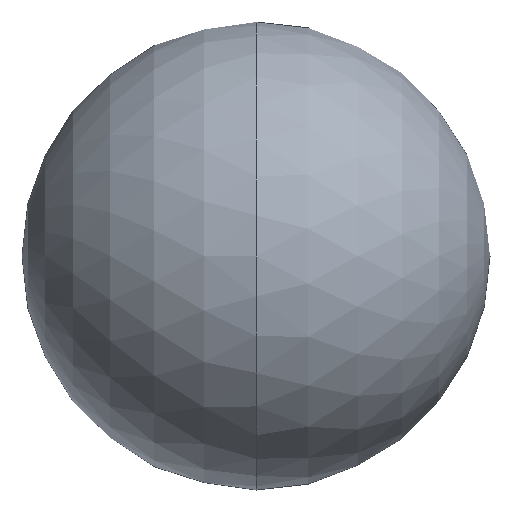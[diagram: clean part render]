
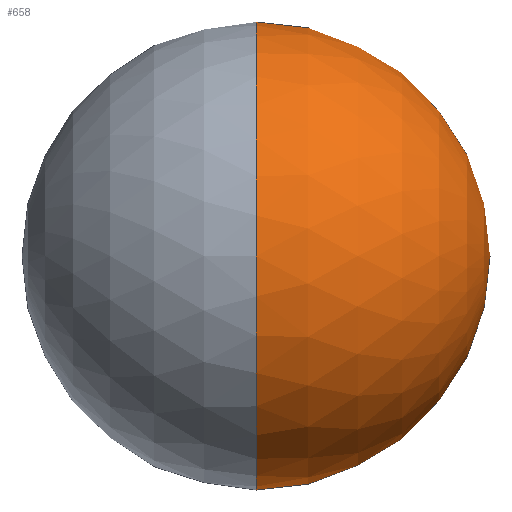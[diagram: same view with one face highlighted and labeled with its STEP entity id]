
A CAD part, left-side view. The second image highlights one B-rep face of the part: STEP entity #658.
In plain terms, the highlighted spherical face has radius 9.525 mm.
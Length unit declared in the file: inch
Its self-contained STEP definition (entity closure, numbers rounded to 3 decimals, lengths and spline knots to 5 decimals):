
#56 = CARTESIAN_POINT ( 'NONE',  ( 1.63556, 0., -0.25658 ) ) ;
#87 = DIRECTION ( 'NONE',  ( 0., 0., 1. ) ) ;
#123 = ORIENTED_EDGE ( 'NONE', *, *, #1359, .F. ) ;
#149 = AXIS2_PLACEMENT_3D ( 'NONE', #884, #603, #1496 ) ;
#216 = AXIS2_PLACEMENT_3D ( 'NONE', #840, #266, #695 ) ;
#266 = DIRECTION ( 'NONE',  ( -1., 0., 0. ) ) ;
#310 = AXIS2_PLACEMENT_3D ( 'NONE', #447, #1197, #890 ) ;
#329 = CARTESIAN_POINT ( 'NONE',  ( 1.63556, 0., 0.25658 ) ) ;
#375 = CARTESIAN_POINT ( 'NONE',  ( 1.36208, 0., 0. ) ) ;
#412 = EDGE_CURVE ( 'NONE', #939, #1057, #995, .T. ) ;
#447 = CARTESIAN_POINT ( 'NONE',  ( 1.36208, 0., 0. ) ) ;
#454 = CARTESIAN_POINT ( 'NONE',  ( 1.36208, 0., 0. ) ) ;
#461 = DIRECTION ( 'NONE',  ( 0., -1., 0. ) ) ;
#471 = FACE_OUTER_BOUND ( 'NONE', #1070, .T. ) ;
#582 = DIRECTION ( 'NONE',  ( 1., 0., 0. ) ) ;
#584 = CIRCLE ( 'NONE', #1523, 0.375 ) ;
#603 = DIRECTION ( 'NONE',  ( 0., -1., 0. ) ) ;
#610 = CARTESIAN_POINT ( 'NONE',  ( 1.36208, 0., 0.375 ) ) ;
#658 = ADVANCED_FACE ( 'NONE', ( #471 ), #754, .T. ) ;
#677 = DIRECTION ( 'NONE',  ( 0., 1., 0. ) ) ;
#681 = EDGE_CURVE ( 'NONE', #1227, #1763, #1180, .T. ) ;
#695 = DIRECTION ( 'NONE',  ( 0., 0., 1. ) ) ;
#754 = SPHERICAL_SURFACE ( 'NONE', #149, 0.375 ) ;
#806 = EDGE_CURVE ( 'NONE', #1227, #1057, #584, .T. ) ;
#817 = CARTESIAN_POINT ( 'NONE',  ( 1.36208, 0., -0.375 ) ) ;
#840 = CARTESIAN_POINT ( 'NONE',  ( 1.63556, 0., 0. ) ) ;
#883 = AXIS2_PLACEMENT_3D ( 'NONE', #454, #461, #582 ) ;
#884 = CARTESIAN_POINT ( 'NONE',  ( 1.36208, 0., 0. ) ) ;
#890 = DIRECTION ( 'NONE',  ( 0., 0., 1. ) ) ;
#939 = VERTEX_POINT ( 'NONE', #56 ) ;
#995 = CIRCLE ( 'NONE', #216, 0.25658 ) ;
#1057 = VERTEX_POINT ( 'NONE', #329 ) ;
#1070 = EDGE_LOOP ( 'NONE', ( #1199, #1124, #123, #1581 ) ) ;
#1124 = ORIENTED_EDGE ( 'NONE', *, *, #681, .T. ) ;
#1180 = CIRCLE ( 'NONE', #883, 0.375 ) ;
#1197 = DIRECTION ( 'NONE',  ( 0., 1., 0. ) ) ;
#1199 = ORIENTED_EDGE ( 'NONE', *, *, #806, .F. ) ;
#1227 = VERTEX_POINT ( 'NONE', #610 ) ;
#1359 = EDGE_CURVE ( 'NONE', #939, #1763, #1592, .T. ) ;
#1496 = DIRECTION ( 'NONE',  ( 1., 0., 0. ) ) ;
#1523 = AXIS2_PLACEMENT_3D ( 'NONE', #375, #677, #87 ) ;
#1581 = ORIENTED_EDGE ( 'NONE', *, *, #412, .T. ) ;
#1592 = CIRCLE ( 'NONE', #310, 0.375 ) ;
#1763 = VERTEX_POINT ( 'NONE', #817 ) ;
